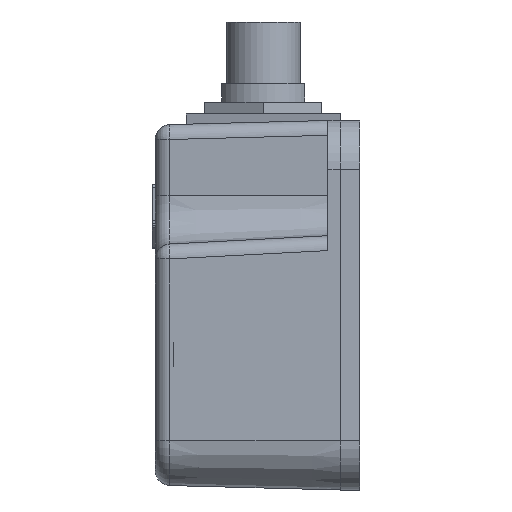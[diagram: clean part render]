
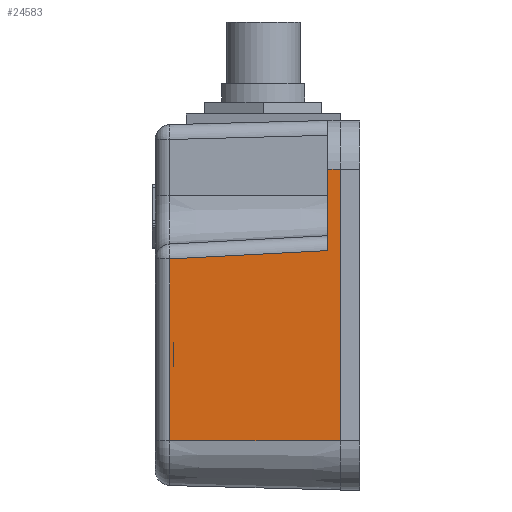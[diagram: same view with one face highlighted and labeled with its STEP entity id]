
A CAD part, left-side view. The second image highlights one B-rep face of the part: STEP entity #24583.
In plain terms, the highlighted planar face has unit normal (-1, 0.026, 0).
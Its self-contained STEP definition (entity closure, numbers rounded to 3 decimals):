
#13309 = CARTESIAN_POINT ( 'NONE',  ( -153., 0., 30. ) ) ;
#13317 = FACE_OUTER_BOUND ( 'NONE', #26636, .T. ) ;
#13318 = PLANE ( 'NONE',  #13660 ) ;
#13320 = DIRECTION ( 'NONE',  ( -1., 0.026, 0. ) ) ;
#13321 = DIRECTION ( 'NONE',  ( -0.026, -1., 0. ) ) ;
#13660 = AXIS2_PLACEMENT_3D ( 'NONE', #13309, #13320, #13321 ) ;
#13823 = VECTOR ( 'NONE', #14190, 1000. ) ;
#14156 = LINE ( 'NONE', #14157, #13823 ) ;
#14157 = CARTESIAN_POINT ( 'NONE',  ( -153., 0., 30. ) ) ;
#14190 = DIRECTION ( 'NONE',  ( 0., 0., 1. ) ) ;
#16741 = EDGE_CURVE ( 'NONE', #17283, #17280, #28639, .T. ) ;
#16742 = EDGE_CURVE ( 'NONE', #17283, #17289, #28642, .T. ) ;
#16743 = EDGE_CURVE ( 'NONE', #17289, #17290, #28615, .T. ) ;
#16744 = EDGE_CURVE ( 'NONE', #17290, #16904, #28648, .T. ) ;
#16745 = EDGE_CURVE ( 'NONE', #16900, #17280, #28651, .T. ) ;
#16900 = VERTEX_POINT ( 'NONE', #28813 ) ;
#16904 = VERTEX_POINT ( 'NONE', #28817 ) ;
#17280 = VERTEX_POINT ( 'NONE', #29327 ) ;
#17283 = VERTEX_POINT ( 'NONE', #29330 ) ;
#17289 = VERTEX_POINT ( 'NONE', #29336 ) ;
#17290 = VERTEX_POINT ( 'NONE', #29337 ) ;
#17794 = ORIENTED_EDGE ( 'NONE', *, *, #16741, .F. ) ;
#17795 = ORIENTED_EDGE ( 'NONE', *, *, #16742, .T. ) ;
#17796 = ORIENTED_EDGE ( 'NONE', *, *, #16743, .T. ) ;
#17797 = ORIENTED_EDGE ( 'NONE', *, *, #16744, .T. ) ;
#17798 = ORIENTED_EDGE ( 'NONE', *, *, #24859, .T. ) ;
#17799 = ORIENTED_EDGE ( 'NONE', *, *, #16745, .T. ) ;
#24583 = ADVANCED_FACE ( 'NONE', ( #13317 ), #13318, .T. ) ;
#24859 = EDGE_CURVE ( 'NONE', #16904, #16900, #14156, .T. ) ;
#26636 = EDGE_LOOP ( 'NONE', ( #17794, #17795, #17796, #17797, #17798, #17799 ) ) ;
#28615 = LINE ( 'NONE', #28646, #28957 ) ;
#28639 = LINE ( 'NONE', #28640, #28961 ) ;
#28640 = CARTESIAN_POINT ( 'NONE',  ( -152.948, 2., -30. ) ) ;
#28641 = DIRECTION ( 'NONE',  ( 0., 0., 1. ) ) ;
#28642 = LINE ( 'NONE', #28644, #28962 ) ;
#28644 = CARTESIAN_POINT ( 'NONE',  ( -153.029, -1.1, 8.999 ) ) ;
#28645 = DIRECTION ( 'NONE',  ( 0.026, 0.998, -0.052 ) ) ;
#28646 = CARTESIAN_POINT ( 'NONE',  ( -152.276, 27.65, 30. ) ) ;
#28647 = DIRECTION ( 'NONE',  ( 0., 0., -1. ) ) ;
#28648 = LINE ( 'NONE', #28649, #28964 ) ;
#28649 = CARTESIAN_POINT ( 'NONE',  ( -153., 0., -22. ) ) ;
#28650 = DIRECTION ( 'NONE',  ( -0.026, -1., 0. ) ) ;
#28651 = LINE ( 'NONE', #28652, #28965 ) ;
#28652 = CARTESIAN_POINT ( 'NONE',  ( -153., 0., 22. ) ) ;
#28653 = DIRECTION ( 'NONE',  ( 0.026, 1., 0. ) ) ;
#28813 = CARTESIAN_POINT ( 'NONE',  ( -153., 0., 22. ) ) ;
#28817 = CARTESIAN_POINT ( 'NONE',  ( -153., 0., -22. ) ) ;
#28957 = VECTOR ( 'NONE', #28647, 1000. ) ;
#28961 = VECTOR ( 'NONE', #28641, 1000. ) ;
#28962 = VECTOR ( 'NONE', #28645, 1000. ) ;
#28964 = VECTOR ( 'NONE', #28650, 1000. ) ;
#28965 = VECTOR ( 'NONE', #28653, 1000. ) ;
#29327 = CARTESIAN_POINT ( 'NONE',  ( -152.948, 2., 22. ) ) ;
#29330 = CARTESIAN_POINT ( 'NONE',  ( -152.948, 2., 8.837 ) ) ;
#29336 = CARTESIAN_POINT ( 'NONE',  ( -152.276, 27.65, 7.493 ) ) ;
#29337 = CARTESIAN_POINT ( 'NONE',  ( -152.276, 27.65, -22. ) ) ;
